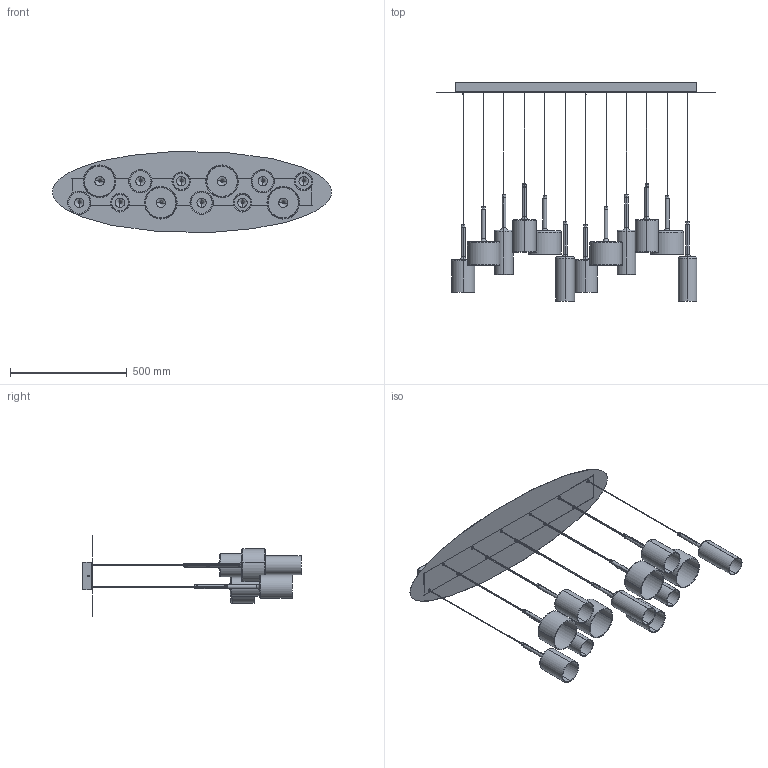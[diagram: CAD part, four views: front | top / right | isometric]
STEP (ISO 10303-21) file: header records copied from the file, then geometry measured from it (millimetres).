
FILE_DESCRIPTION (( 'STEP AP203' ), '1' );
FILE_NAME ('SPSPIX12EXXXXXX-PER 3D.STEP', '2025-06-26T06:58:27', ( '' ), ( '' ), 'SwSTEP 2.0', 'SolidWorks 2024', '' );
FILE_SCHEMA (( 'CONFIG_CONTROL_DESIGN' ));
Length unit declared in the file: millimetre
Products named in the file (31): PENDENTE SPILLRAY EVO G-00; CAVO NL2CN_CAVO NL2CN; PENDENTE SPILLRAY EVO M-00; WSM2G1522-FR------; VSPILLRAYGCS; WSCM2A0119-0700-00; PENDENTE SPILLRAY EVO P-00; WSCM2C0183-0100-00; WSASS-000000056-00; VSPILLRAYMCS; WSCM2C0182-0100-00; VSPILLRAYPCS; SPSPIX12EXXXXXX-PER 3D
Assembly tree (60 placements, depth 3):
  SPSPIX12EXXXXXX-PER 3D
    WSASS-000000056-00
      WSCM2C0182-0100-00
      WSCM2C0183-0100-00
      WSM2G1522-FR------  x12
    PENDENTE SPILLRAY EVO P-00
      WSCM2A0119-0700-00
      CAVO NL2CN_CAVO NL2CN
      VSPILLRAYPCS
    PENDENTE SPILLRAY EVO G-00
      WSCM2A0119-0700-00
      CAVO NL2CN_CAVO NL2CN
      VSPILLRAYGCS
    PENDENTE SPILLRAY EVO M-00
      WSCM2A0119-0700-00
      CAVO NL2CN_CAVO NL2CN
      VSPILLRAYMCS
    PENDENTE SPILLRAY EVO P-00
      WSCM2A0119-0700-00
      CAVO NL2CN_CAVO NL2CN
      VSPILLRAYPCS
    PENDENTE SPILLRAY EVO G-00
      WSCM2A0119-0700-00
      CAVO NL2CN_CAVO NL2CN
      VSPILLRAYGCS
    PENDENTE SPILLRAY EVO G-00
      WSCM2A0119-0700-00
      CAVO NL2CN_CAVO NL2CN
      VSPILLRAYGCS
    PENDENTE SPILLRAY EVO M-00
      WSCM2A0119-0700-00
      CAVO NL2CN_CAVO NL2CN
      VSPILLRAYMCS
    PENDENTE SPILLRAY EVO P-00
      WSCM2A0119-0700-00
      CAVO NL2CN_CAVO NL2CN
      VSPILLRAYPCS
    PENDENTE SPILLRAY EVO M-00  x2
      WSCM2A0119-0700-00
      CAVO NL2CN_CAVO NL2CN
      VSPILLRAYMCS
    PENDENTE SPILLRAY EVO G-00
      WSCM2A0119-0700-00
      CAVO NL2CN_CAVO NL2CN
      VSPILLRAYGCS
    PENDENTE SPILLRAY EVO P-00
      WSCM2A0119-0700-00
      CAVO NL2CN_CAVO NL2CN
      VSPILLRAYPCS
Bounding box: 1196 x 937.37 x 346.22 mm (x, y, z)
Volume: 2921566.7 mm3; surface area: 2675882.8 mm2
Topology: 86 solids, 86 shells, 1576 faces, 3248 edges, 1920 vertices
Faces by surface type: cylinder 630, plane 344, torus 328, cone 240, bspline 34
Entity records: 25511 total; most frequent: DIRECTION 4190, CARTESIAN_POINT 4080, ORIENTED_EDGE 3184, AXIS2_PLACEMENT_3D 1800, EDGE_CURVE 1592, CIRCLE 958, VERTEX_POINT 956, EDGE_LOOP 884
